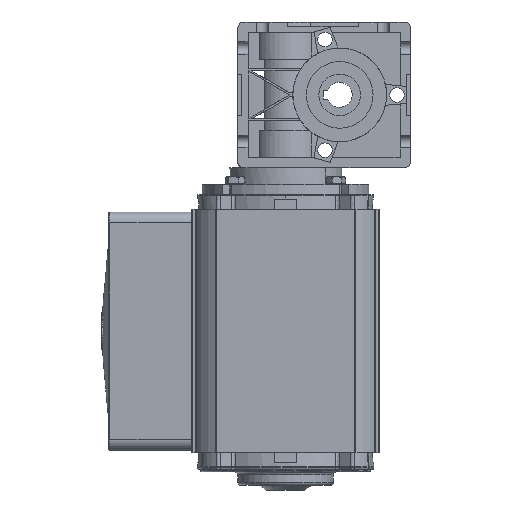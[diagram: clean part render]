
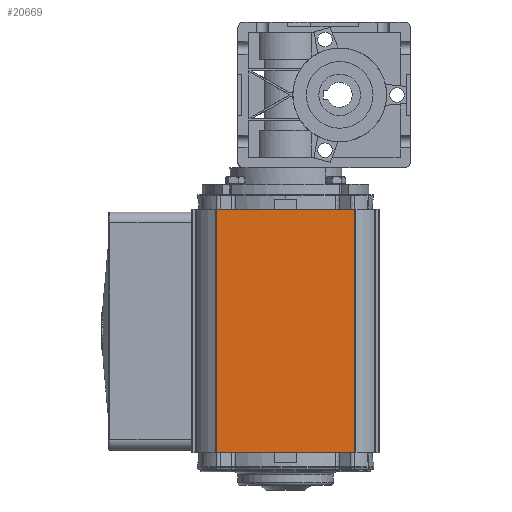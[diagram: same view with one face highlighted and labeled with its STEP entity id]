
A CAD part, left-side view. The second image highlights one B-rep face of the part: STEP entity #20669.
In plain terms, the highlighted planar face has unit normal (-1, 0, 0).
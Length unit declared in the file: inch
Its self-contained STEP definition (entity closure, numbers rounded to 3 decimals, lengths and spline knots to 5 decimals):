
#16243 = DIRECTION ( 'NONE',  ( 0., 0., 1. ) ) ;
#16244 = VECTOR ( 'NONE', #16243, 39.37008 ) ;
#16471 = DIRECTION ( 'NONE',  ( 0., -1., 0. ) ) ;
#16472 = VECTOR ( 'NONE', #16471, 39.37008 ) ;
#16473 = CARTESIAN_POINT ( 'NONE',  ( -1.7765, -1.11185, -8.14472 ) ) ;
#16474 = LINE ( 'NONE', #16473, #16472 ) ;
#16475 = CARTESIAN_POINT ( 'NONE',  ( -1.7765, 1.51815, -8.14472 ) ) ;
#16476 = DIRECTION ( 'NONE',  ( 0., 0., -1. ) ) ;
#16477 = VECTOR ( 'NONE', #16476, 39.37008 ) ;
#16478 = CARTESIAN_POINT ( 'NONE',  ( -1.7765, 1.51815, -3.45672 ) ) ;
#16479 = LINE ( 'NONE', #16478, #16477 ) ;
#16480 = CARTESIAN_POINT ( 'NONE',  ( -1.7765, 1.51815, -3.53972 ) ) ;
#16481 = DIRECTION ( 'NONE',  ( 0., 1., 0. ) ) ;
#16482 = VECTOR ( 'NONE', #16481, 39.37008 ) ;
#16483 = CARTESIAN_POINT ( 'NONE',  ( -1.7765, -1.56335, -3.53972 ) ) ;
#16485 = LINE ( 'NONE', #16483, #16482 ) ;
#16502 = CARTESIAN_POINT ( 'NONE',  ( -1.7765, -1.09185, -3.45672 ) ) ;
#16503 = LINE ( 'NONE', #16502, #16244 ) ;
#16504 = CARTESIAN_POINT ( 'NONE',  ( -1.7765, -1.09185, -3.53972 ) ) ;
#16550 = DIRECTION ( 'NONE',  ( 0., 0., -1. ) ) ;
#16551 = DIRECTION ( 'NONE',  ( 1., 0., 0. ) ) ;
#16552 = CARTESIAN_POINT ( 'NONE',  ( -1.7765, -1.11185, -3.45672 ) ) ;
#16553 = AXIS2_PLACEMENT_3D ( 'NONE', #16552, #16551, #16550 ) ;
#16554 = PLANE ( 'NONE',  #16553 ) ;
#16556 = FACE_OUTER_BOUND ( 'NONE', #20670, .T. ) ;
#16566 = CARTESIAN_POINT ( 'NONE',  ( -1.7765, -1.09185, -8.14472 ) ) ;
#20639 = ORIENTED_EDGE ( 'NONE', *, *, #20663, .T. ) ;
#20640 = ORIENTED_EDGE ( 'NONE', *, *, #20641, .T. ) ;
#20641 = EDGE_CURVE ( 'NONE', #20661, #20642, #16485, .T. ) ;
#20642 = VERTEX_POINT ( 'NONE', #16480 ) ;
#20643 = ORIENTED_EDGE ( 'NONE', *, *, #20644, .T. ) ;
#20644 = EDGE_CURVE ( 'NONE', #20642, #20645, #16479, .T. ) ;
#20645 = VERTEX_POINT ( 'NONE', #16475 ) ;
#20646 = ORIENTED_EDGE ( 'NONE', *, *, #20647, .T. ) ;
#20647 = EDGE_CURVE ( 'NONE', #20645, #20664, #16474, .T. ) ;
#20661 = VERTEX_POINT ( 'NONE', #16504 ) ;
#20663 = EDGE_CURVE ( 'NONE', #20664, #20661, #16503, .T. ) ;
#20664 = VERTEX_POINT ( 'NONE', #16566 ) ;
#20669 = ADVANCED_FACE ( 'NONE', ( #16556 ), #16554, .F. ) ;
#20670 = EDGE_LOOP ( 'NONE', ( #20639, #20640, #20643, #20646 ) ) ;
